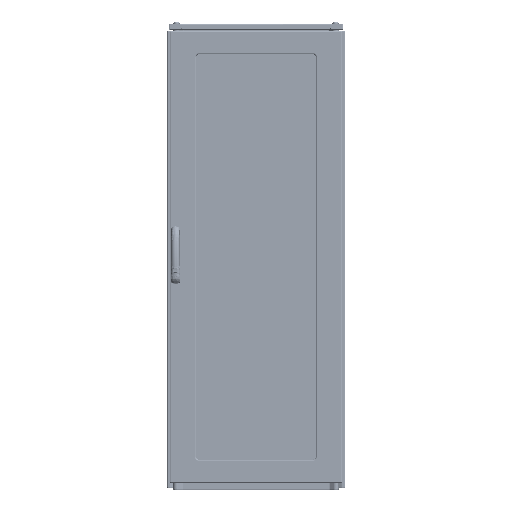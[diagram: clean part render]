
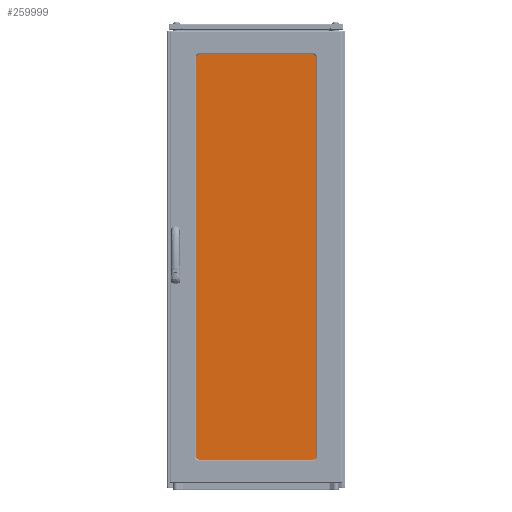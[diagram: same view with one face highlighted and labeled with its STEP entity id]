
A CAD part, top view. The second image highlights one B-rep face of the part: STEP entity #259999.
In plain terms, the highlighted planar face has unit normal (0, 0, 1).
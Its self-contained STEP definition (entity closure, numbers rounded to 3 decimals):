
#6686 = DIRECTION ( 'NONE',  ( 1., 0., 0. ) ) ;
#7745 = DIRECTION ( 'NONE',  ( 1., 0., 0. ) ) ;
#10818 = CARTESIAN_POINT ( 'NONE',  ( 0., 0., 4. ) ) ;
#18224 = ORIENTED_EDGE ( 'NONE', *, *, #151136, .T. ) ;
#34085 = CARTESIAN_POINT ( 'NONE',  ( 0., -446., 4. ) ) ;
#44243 = VERTEX_POINT ( 'NONE', #34085 ) ;
#46504 = VECTOR ( 'NONE', #245202, 1000. ) ;
#50676 = DIRECTION ( 'NONE',  ( 0., 0., 1. ) ) ;
#54769 = DIRECTION ( 'NONE',  ( 0., 1., 0. ) ) ;
#66058 = EDGE_CURVE ( 'NONE', #44243, #128223, #248544, .T. ) ;
#70750 = FACE_OUTER_BOUND ( 'NONE', #164825, .T. ) ;
#76264 = LINE ( 'NONE', #250884, #179003 ) ;
#82716 = DIRECTION ( 'NONE',  ( 0., -1., 0. ) ) ;
#96164 = EDGE_CURVE ( 'NONE', #128223, #104077, #76264, .T. ) ;
#104077 = VERTEX_POINT ( 'NONE', #256146 ) ;
#104192 = LINE ( 'NONE', #191501, #147363 ) ;
#105716 = ORIENTED_EDGE ( 'NONE', *, *, #96164, .T. ) ;
#109896 = EDGE_CURVE ( 'NONE', #127296, #44243, #104192, .T. ) ;
#115432 = CARTESIAN_POINT ( 'NONE',  ( 0., -446., 4. ) ) ;
#116488 = CARTESIAN_POINT ( 'NONE',  ( 0., -446., 4. ) ) ;
#127296 = VERTEX_POINT ( 'NONE', #10818 ) ;
#128223 = VERTEX_POINT ( 'NONE', #150311 ) ;
#133582 = CARTESIAN_POINT ( 'NONE',  ( 0., 0., 4. ) ) ;
#134057 = ORIENTED_EDGE ( 'NONE', *, *, #66058, .T. ) ;
#147363 = VECTOR ( 'NONE', #82716, 1000. ) ;
#150311 = CARTESIAN_POINT ( 'NONE',  ( 1431., -446., 4. ) ) ;
#151136 = EDGE_CURVE ( 'NONE', #104077, #127296, #153682, .T. ) ;
#153682 = LINE ( 'NONE', #133582, #46504 ) ;
#164825 = EDGE_LOOP ( 'NONE', ( #192728, #134057, #105716, #18224 ) ) ;
#179003 = VECTOR ( 'NONE', #54769, 1000. ) ;
#191501 = CARTESIAN_POINT ( 'NONE',  ( 0., 0., 4. ) ) ;
#192728 = ORIENTED_EDGE ( 'NONE', *, *, #109896, .T. ) ;
#203088 = AXIS2_PLACEMENT_3D ( 'NONE', #116488, #50676, #7745 ) ;
#225294 = PLANE ( 'NONE',  #203088 ) ;
#245202 = DIRECTION ( 'NONE',  ( -1., 0., 0. ) ) ;
#248544 = LINE ( 'NONE', #115432, #278806 ) ;
#250884 = CARTESIAN_POINT ( 'NONE',  ( 1431., 0., 4. ) ) ;
#256146 = CARTESIAN_POINT ( 'NONE',  ( 1431., 0., 4. ) ) ;
#259999 = ADVANCED_FACE ( 'NONE', ( #70750 ), #225294, .T. ) ;
#278806 = VECTOR ( 'NONE', #6686, 1000. ) ;
